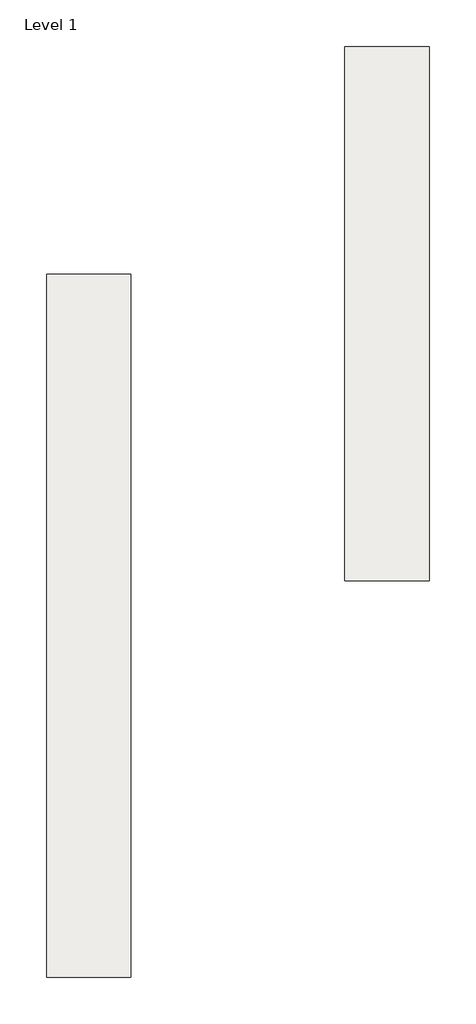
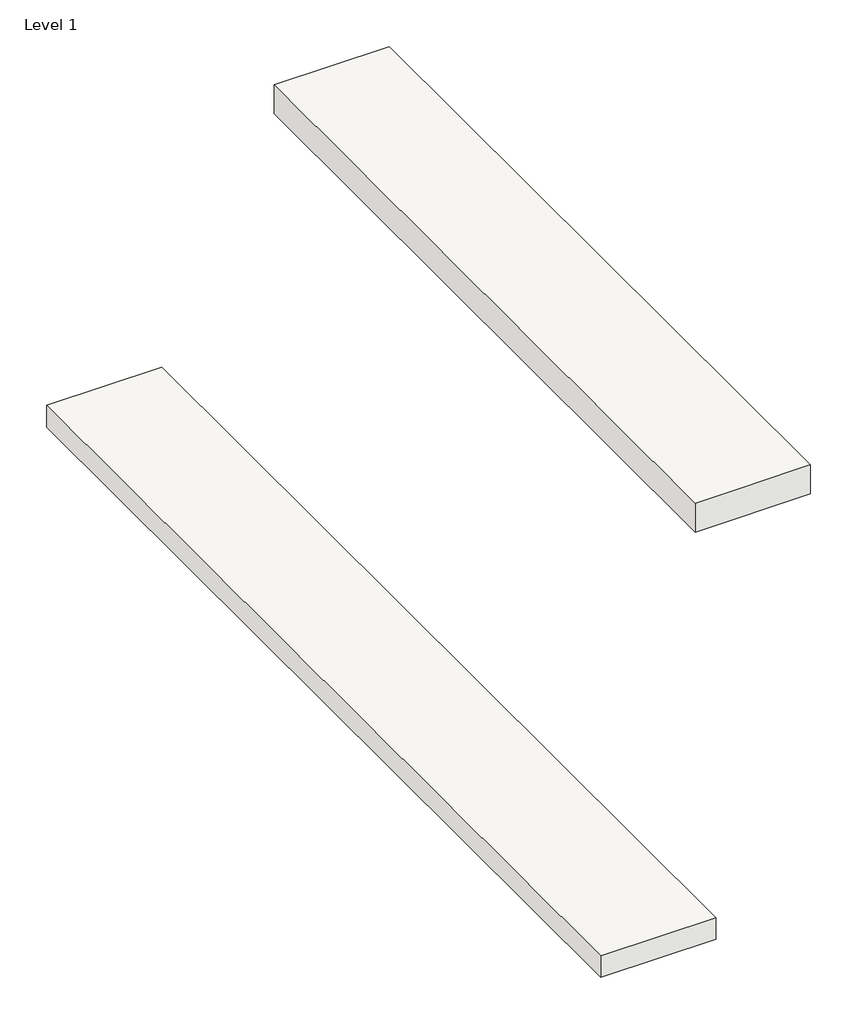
# One storey: 2 roofs.
"""IFC4 building model written with IfcOpenShell, lengths in millimetres."""

from ifc_helpers import new_model, si_unit, origin, origin_with_axes, place, context, project, spatial, polyline, outline, extrude, element, save

model = new_model("IFC4")

# Units and contexts
model_context = context("Model", 3, world=origin())
ifc_project = project(units=[si_unit("LENGTHUNIT", "METRE", prefix="MILLI")], contexts=[model_context])

# Site, building, storey
site = spatial("IfcSite", under=ifc_project)
building = spatial("IfcBuilding", under=site)
storey = spatial("IfcBuildingStorey", under=building, Name="Level 1", Elevation=0.0)

# Roofs
placement = place(None, origin())
element("IfcRoof", 1, ObjectType="NLRS_27_RO_Mineral Wool 34 Alu Plus_120x600x5000mm", at=placement, inside=storey, context=model_context, shape_type="SweptSolid", body=[
    extrude(outline(polyline([(6538.8056211, 3135.8754465), (5938.8056211, 3135.8754465), (5938.8056211, 8135.8754465), (6538.8056211, 8135.8754465), (6538.8056211, 3135.8754465)])), origin_with_axes(), (0.0, 0.0, 1.0), 120.0),
])
element("IfcRoof", 2, ObjectType="NLRS_27_RO_Mineral Wool 34 Alu Plus_160x600x3800mm", at=placement, inside=storey, context=model_context, shape_type="SweptSolid", body=[
    extrude(outline(polyline([(8660.1259646, 5957.1957901), (8060.1259646, 5957.1957901), (8060.1259646, 9757.1957901), (8660.1259646, 9757.1957901), (8660.1259646, 5957.1957901)])), origin_with_axes(), (0.0, 0.0, 1.0), 160.0),
])

save(model, "model.ifc")
